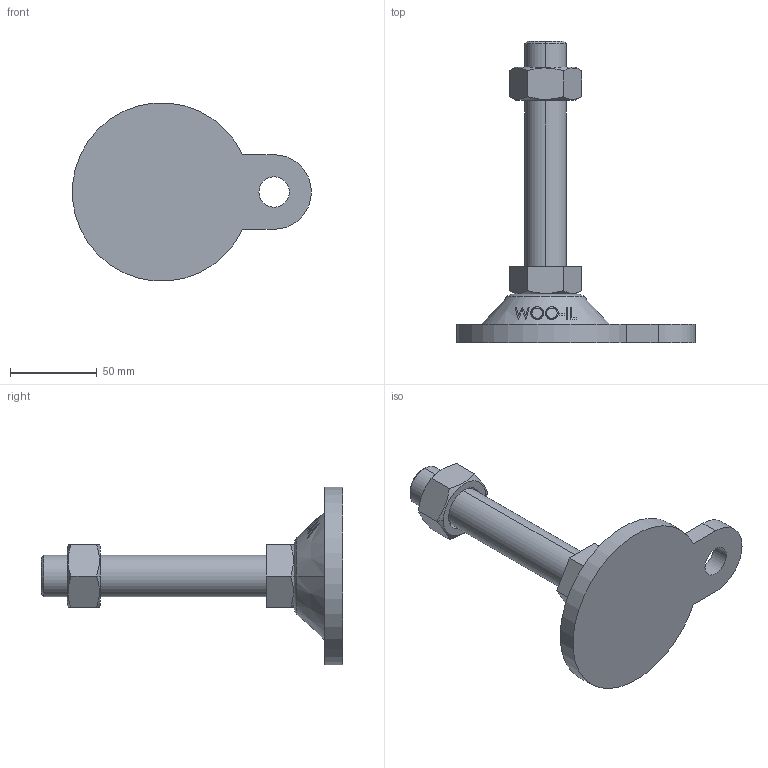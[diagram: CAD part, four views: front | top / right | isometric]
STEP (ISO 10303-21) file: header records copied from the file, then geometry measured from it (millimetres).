
FILE_DESCRIPTION (( 'STEP AP214' ), '1' );
FILE_NAME ('ARB103-M24-130.step', '2021-03-25T00:42:04', ( '' ), ( '' ), 'SwSTEP 2.0', 'SolidWorks 2019', '' );
FILE_SCHEMA (( 'AUTOMOTIVE_DESIGN' ));
Length unit declared in the file: millimetre
Products named in the file (2): ARB103-M24-130
Bounding box: 137.8 x 174 x 102.64 mm (x, y, z)
Volume: 235413.5 mm3; surface area: 43672.7 mm2
Topology: 3 solids, 3 shells, 97 faces, 229 edges, 148 vertices
Faces by surface type: plane 49, cone 22, bspline 16, cylinder 8, torus 2
Entity records: 4448 total; most frequent: CARTESIAN_POINT 2286, ORIENTED_EDGE 458, DIRECTION 375, EDGE_CURVE 229, VERTEX_POINT 148, AXIS2_PLACEMENT_3D 143, EDGE_LOOP 111, ADVANCED_FACE 97
